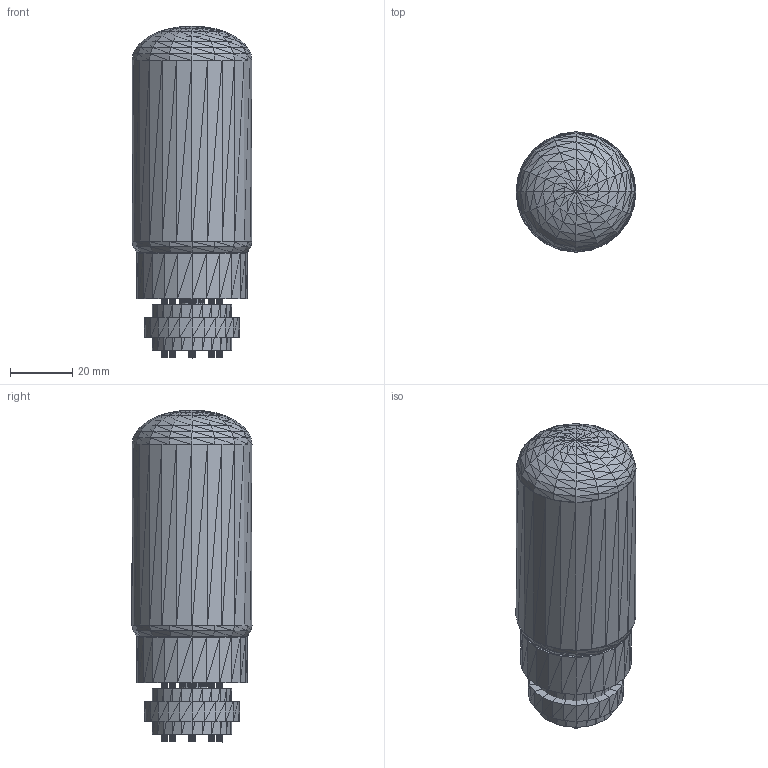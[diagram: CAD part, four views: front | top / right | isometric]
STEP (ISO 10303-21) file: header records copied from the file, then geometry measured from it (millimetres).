
FILE_DESCRIPTION(('HOOPS Exchange Step'),'2;1');
FILE_NAME('***.stp');
FILE_SCHEMA( ('AP242_MANAGED_MODEL_BASED_3D_ENGINEERING_MIM_LF {1 0 10303 442 1 1 4 }') );
Length unit declared in the file: inch
Products named in the file (27): OCTUBEWSKT_2; OCTUBEWSKT_4; OCTUBEWSKT_6; OCTUBEWSKT_8; OCTUBEWSKT_10; OCTUBEWSKT_11; OCTUBEWSKT_14; OCTUBEWSKT_16; OCTUBEWSKT_18; OCTUBEWSKT_19; OCTUBEWSKT_21; OCTUBEWSKT_22; OCTUBEWSKT_23; OCTUBEWSKT_24; OCTUBEWSKT_25; OCTUBEWSKT_26; OCTUBEWSKT_27; OCTUBEWSKT_28; OCTUBEWSKT_29; OCTUBEWSKT_30; OCTUBEWSKT_31; OCTUBEWSKT_32; OCTUBEWSKT_33; OCTUBEWSKT_34; OCTUBEWSKT_35; OCTUBEWSKT_36; OCTUBEWSKT
Assembly tree (26 placements, depth 2):
  OCTUBEWSKT
    OCTUBEWSKT_2
    OCTUBEWSKT_4
    OCTUBEWSKT_6
    OCTUBEWSKT_8
    OCTUBEWSKT_10
    OCTUBEWSKT_11
    OCTUBEWSKT_14
    OCTUBEWSKT_16
    OCTUBEWSKT_18
    OCTUBEWSKT_19
    OCTUBEWSKT_21
    OCTUBEWSKT_22
    OCTUBEWSKT_23
    OCTUBEWSKT_24
    OCTUBEWSKT_25
    OCTUBEWSKT_26
    OCTUBEWSKT_27
    OCTUBEWSKT_28
    OCTUBEWSKT_29
    OCTUBEWSKT_30
    OCTUBEWSKT_31
    OCTUBEWSKT_32
    OCTUBEWSKT_33
    OCTUBEWSKT_34
    OCTUBEWSKT_35
    OCTUBEWSKT_36
Bounding box: 38.45 x 38.46 x 106.39 mm (x, y, z)
Volume: 68598 mm3; surface area: 35032.1 mm2
Topology: 26 solids, 26 shells, 2848 faces, 4272 edges, 1474 vertices
Faces by surface type: plane 2848
Entity records: 56807 total; most frequent: DIRECTION 10076, CARTESIAN_POINT 8648, ORIENTED_EDGE 8544, VECTOR 4272, LINE 4272, EDGE_CURVE 4272, AXIS2_PLACEMENT_3D 2902, PLANE 2848
